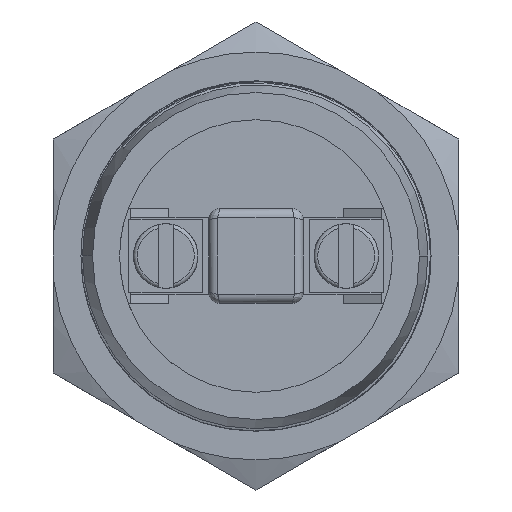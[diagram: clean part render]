
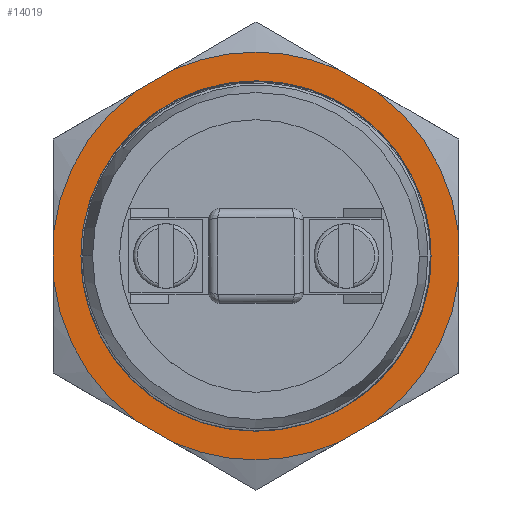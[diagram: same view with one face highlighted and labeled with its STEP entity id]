
A CAD part, front view. The second image highlights one B-rep face of the part: STEP entity #14019.
In plain terms, the highlighted planar face has unit normal (0, -1, 0).
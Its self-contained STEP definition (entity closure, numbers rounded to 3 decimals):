
#13569=DIRECTION('',(-0.866,0.,0.5));
#13570=VECTOR('',#13569,2.392);
#13571=CARTESIAN_POINT('',(-4.464,7.36,
-10.124));
#13572=LINE('',#13571,#13570);
#13573=CARTESIAN_POINT('',(0.,7.36,0.));
#13574=DIRECTION('',(0.,1.,0.));
#13575=DIRECTION('',(-0.591,0.,-0.807));
#13576=AXIS2_PLACEMENT_3D('',#13573,#13574,#13575);
#13578=DIRECTION('',(0.,0.,1.));
#13579=VECTOR('',#13578,2.392);
#13580=CARTESIAN_POINT('',(-11.,7.36,-1.196));
#13581=LINE('',#13580,#13579);
#13582=CARTESIAN_POINT('',(0.,7.36,0.));
#13583=DIRECTION('',(0.,1.,0.));
#13584=DIRECTION('',(-0.994,0.,0.108));
#13585=AXIS2_PLACEMENT_3D('',#13582,#13583,#13584);
#13587=DIRECTION('',(0.866,0.,0.5));
#13588=VECTOR('',#13587,2.392);
#13589=CARTESIAN_POINT('',(-6.536,7.36,
8.928));
#13590=LINE('',#13589,#13588);
#13591=CARTESIAN_POINT('',(0.,7.36,0.));
#13592=DIRECTION('',(0.,1.,0.));
#13593=DIRECTION('',(-0.403,0.,0.915));
#13594=AXIS2_PLACEMENT_3D('',#13591,#13592,#13593);
#13596=CARTESIAN_POINT('',(0.,7.36,0.));
#13597=DIRECTION('',(0.,1.,0.));
#13598=DIRECTION('',(0.,0.,1.));
#13599=AXIS2_PLACEMENT_3D('',#13596,#13597,#13598);
#13601=DIRECTION('',(0.866,0.,-0.5));
#13602=VECTOR('',#13601,2.392);
#13603=CARTESIAN_POINT('',(4.464,7.36,10.124));
#13604=LINE('',#13603,#13602);
#13605=CARTESIAN_POINT('',(0.,7.36,0.));
#13606=DIRECTION('',(0.,1.,0.));
#13607=DIRECTION('',(0.591,0.,0.807));
#13608=AXIS2_PLACEMENT_3D('',#13605,#13606,#13607);
#13610=DIRECTION('',(0.,0.,-1.));
#13611=VECTOR('',#13610,2.392);
#13612=CARTESIAN_POINT('',(11.,7.36,1.196));
#13613=LINE('',#13612,#13611);
#13614=CARTESIAN_POINT('',(0.,7.36,0.));
#13615=DIRECTION('',(0.,1.,0.));
#13616=DIRECTION('',(0.994,0.,-0.108));
#13617=AXIS2_PLACEMENT_3D('',#13614,#13615,#13616);
#13619=DIRECTION('',(-0.866,0.,-0.5));
#13620=VECTOR('',#13619,2.392);
#13621=CARTESIAN_POINT('',(6.536,7.36,
-8.928));
#13622=LINE('',#13621,#13620);
#13623=CARTESIAN_POINT('',(0.,7.36,0.));
#13624=DIRECTION('',(0.,1.,0.));
#13625=DIRECTION('',(0.403,0.,-0.915));
#13626=AXIS2_PLACEMENT_3D('',#13623,#13624,#13625);
#13628=CARTESIAN_POINT('',(0.,7.36,0.));
#13629=DIRECTION('',(0.,1.,0.));
#13630=DIRECTION('',(0.,0.,-1.));
#13631=AXIS2_PLACEMENT_3D('',#13628,#13629,#13630);
#13789=CARTESIAN_POINT('',(11.,7.36,-1.196));
#13821=CARTESIAN_POINT('',(6.536,7.36,8.928));
#13837=CARTESIAN_POINT('',(-4.464,7.36,
10.124));
#13853=CARTESIAN_POINT('',(-11.,7.36,1.196));
#13893=VERTEX_POINT('',#13853);
#13894=CARTESIAN_POINT('',(-11.,7.36,-1.196));
#13895=VERTEX_POINT('',#13894);
#13899=VERTEX_POINT('',#13837);
#13900=CARTESIAN_POINT('',(-6.536,7.36,
8.928));
#13901=VERTEX_POINT('',#13900);
#13904=VERTEX_POINT('',#13821);
#13905=CARTESIAN_POINT('',(4.464,7.36,10.124));
#13906=VERTEX_POINT('',#13905);
#13909=VERTEX_POINT('',#13789);
#13910=CARTESIAN_POINT('',(11.,7.36,1.196));
#13911=VERTEX_POINT('',#13910);
#13912=CARTESIAN_POINT('',(6.536,7.36,
-8.928));
#13913=CARTESIAN_POINT('',(4.464,7.36,
-10.124));
#13914=VERTEX_POINT('',#13912);
#13915=VERTEX_POINT('',#13913);
#13918=CARTESIAN_POINT('',(-4.464,7.36,
-10.124));
#13919=CARTESIAN_POINT('',(-6.536,7.36,
-8.928));
#13920=VERTEX_POINT('',#13918);
#13921=VERTEX_POINT('',#13919);
#13922=CARTESIAN_POINT('',(0.,7.36,11.065));
#13923=VERTEX_POINT('',#13922);
#13924=CARTESIAN_POINT('',(0.,7.36,-11.065));
#13925=VERTEX_POINT('',#13924);
#13985=CARTESIAN_POINT('',(0.,7.36,0.));
#13986=DIRECTION('',(0.,-1.,0.));
#13987=DIRECTION('',(1.,0.,0.));
#13988=AXIS2_PLACEMENT_3D('',#13985,#13986,#13987);
#13989=PLANE('',#13988);
#13990=ORIENTED_EDGE('',*,*,#13969,.T.);
#13992=ORIENTED_EDGE('',*,*,#13991,.T.);
#13994=ORIENTED_EDGE('',*,*,#13993,.T.);
#13996=ORIENTED_EDGE('',*,*,#13995,.T.);
#13998=ORIENTED_EDGE('',*,*,#13997,.T.);
#14000=ORIENTED_EDGE('',*,*,#13999,.T.);
#14002=ORIENTED_EDGE('',*,*,#14001,.T.);
#14004=ORIENTED_EDGE('',*,*,#14003,.T.);
#14006=ORIENTED_EDGE('',*,*,#14005,.T.);
#14008=ORIENTED_EDGE('',*,*,#14007,.T.);
#14010=ORIENTED_EDGE('',*,*,#14009,.T.);
#14012=ORIENTED_EDGE('',*,*,#14011,.T.);
#14014=ORIENTED_EDGE('',*,*,#14013,.T.);
#14016=ORIENTED_EDGE('',*,*,#14015,.T.);
#14017=EDGE_LOOP('',(#13990,#13992,#13994,#13996,#13998,#14000,#14002,#14004,
#14006,#14008,#14010,#14012,#14014,#14016));
#14018=FACE_OUTER_BOUND('',#14017,.F.);
#14019=ADVANCED_FACE('',(#14018),#13989,.T.);
#13577=CIRCLE('',#13576,11.065);
#13586=CIRCLE('',#13585,11.065);
#13595=CIRCLE('',#13594,11.065);
#13600=CIRCLE('',#13599,11.065);
#13609=CIRCLE('',#13608,11.065);
#13618=CIRCLE('',#13617,11.065);
#13627=CIRCLE('',#13626,11.065);
#13632=CIRCLE('',#13631,11.065);
#13969=EDGE_CURVE('',#13920,#13921,#13572,.T.);
#13991=EDGE_CURVE('',#13921,#13895,#13577,.T.);
#13993=EDGE_CURVE('',#13895,#13893,#13581,.T.);
#13995=EDGE_CURVE('',#13893,#13901,#13586,.T.);
#13997=EDGE_CURVE('',#13901,#13899,#13590,.T.);
#13999=EDGE_CURVE('',#13899,#13923,#13595,.T.);
#14001=EDGE_CURVE('',#13923,#13906,#13600,.T.);
#14003=EDGE_CURVE('',#13906,#13904,#13604,.T.);
#14005=EDGE_CURVE('',#13904,#13911,#13609,.T.);
#14007=EDGE_CURVE('',#13911,#13909,#13613,.T.);
#14009=EDGE_CURVE('',#13909,#13914,#13618,.T.);
#14011=EDGE_CURVE('',#13914,#13915,#13622,.T.);
#14013=EDGE_CURVE('',#13915,#13925,#13627,.T.);
#14015=EDGE_CURVE('',#13925,#13920,#13632,.T.);
